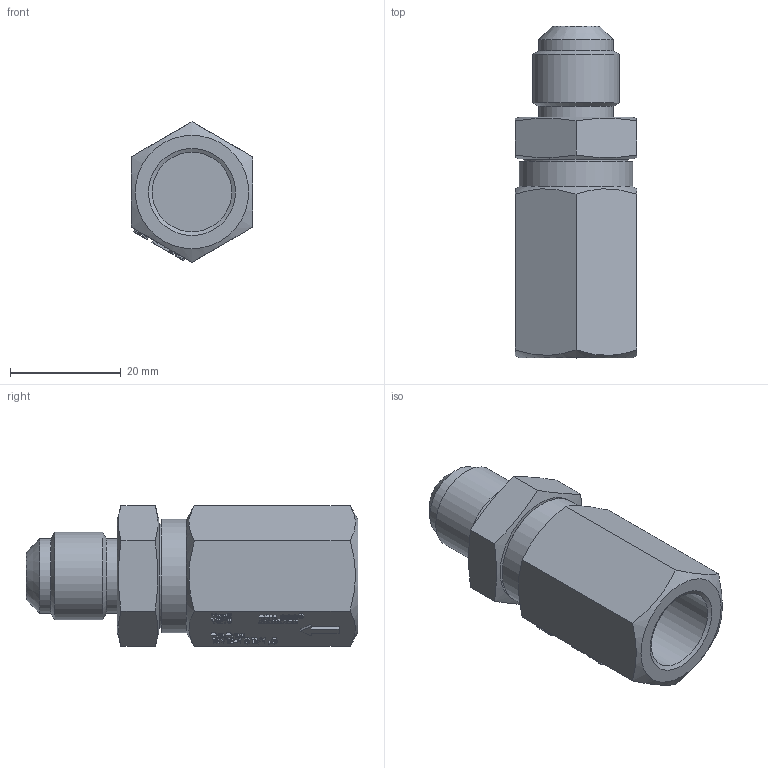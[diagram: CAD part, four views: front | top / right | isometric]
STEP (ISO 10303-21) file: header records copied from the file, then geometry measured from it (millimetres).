
FILE_DESCRIPTION(/* description */ (''),/* implementation_level */ '2;1');
FILE_NAME(/* name */ 'P:\RV\RV2-10B-1,5\RV2-10B-1,5.stp',/* time_stamp */ '2017-10-05T09:04:53+02:00',/* author */ ('neufeld'),/* organization */ (''),/* preprocessor_version */ 'ST-DEVELOPER v16.1',/* originating_system */ 'Autodesk Inventor 2016',/* authorisation */ '');
FILE_SCHEMA (('AUTOMOTIVE_DESIGN { 1 0 10303 214 3 1 1 }'));
Length unit declared in the file: millimetre
Products named in the file (3): RV2-10B-1,5_1; RV2-10B-1,5; RV2-10B-1,5_2
Assembly tree (2 placements, depth 2):
  RV2-10B-1,5_2
    RV2-10B-1,5_1
    RV2-10B-1,5
Bounding box: 22 x 60 x 25.4 mm (x, y, z)
Volume: 17837.7 mm3; surface area: 6024.1 mm2
Topology: 1 solids, 1 shells, 788 faces, 2143 edges, 1426 vertices
Faces by surface type: plane 548, bspline 224, cylinder 8, cone 8
Full cylindrical faces by diameter (mm): 7 x1, 13.5 x2, 14.4 x1, 15.745 x1, 18.8 x1, 19.05 x1, 20.5 x1
Entity records: 26341 total; most frequent: CARTESIAN_POINT 8040, ORIENTED_EDGE 4248, DIRECTION 2811, EDGE_CURVE 2124, LINE 1631, VECTOR 1631, VERTEX_POINT 1423, EDGE_LOOP 873
